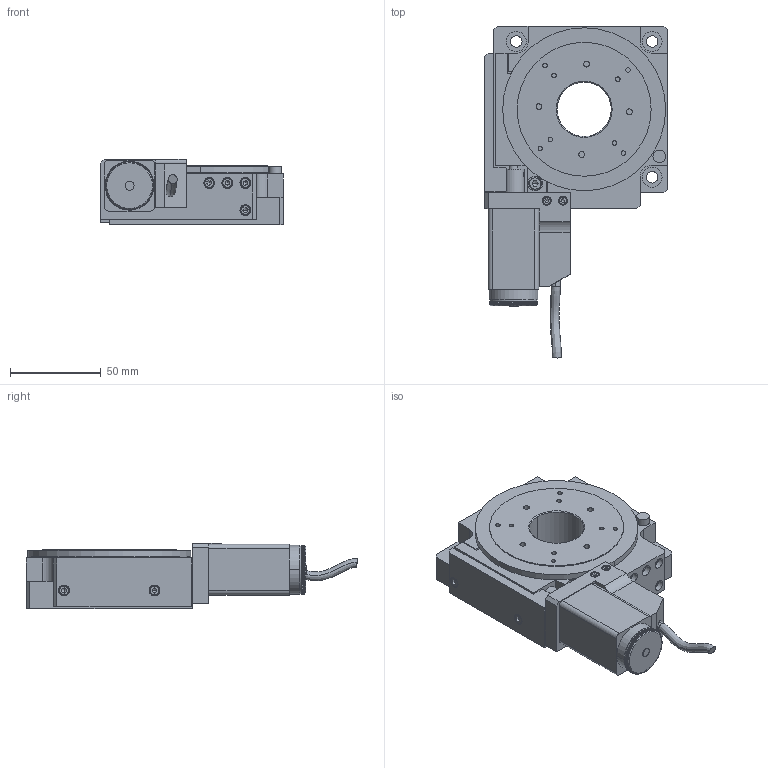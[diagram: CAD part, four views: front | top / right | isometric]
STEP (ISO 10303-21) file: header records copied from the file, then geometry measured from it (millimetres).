
FILE_DESCRIPTION (( 'STEP AP203' ), '1' );
FILE_NAME ('8MR191-30-28.STEP', '2007-04-23T09:05:27', ( 'STANDA' ), ( '' ), 'SwSTEP 2.0', 'SolidWorks 2003240', '' );
FILE_SCHEMA (( 'CONFIG_CONTROL_DESIGN' ));
Length unit declared in the file: millimetre
Products named in the file (1): 8MR191-30-28
Bounding box: 101 x 183.36 x 36 mm (x, y, z)
Volume: 274879.3 mm3; surface area: 83252.4 mm2
Topology: 1 solids, 24 shells, 1442 faces, 3821 edges, 2454 vertices
Faces by surface type: cylinder 722, plane 586, cone 100, bspline 34
Entity records: 48089 total; most frequent: CARTESIAN_POINT 12011, DIRECTION 7704, ORIENTED_EDGE 7550, EDGE_CURVE 3775, AXIS2_PLACEMENT_3D 2972, VERTEX_POINT 2454, VECTOR 1760, LINE 1760
